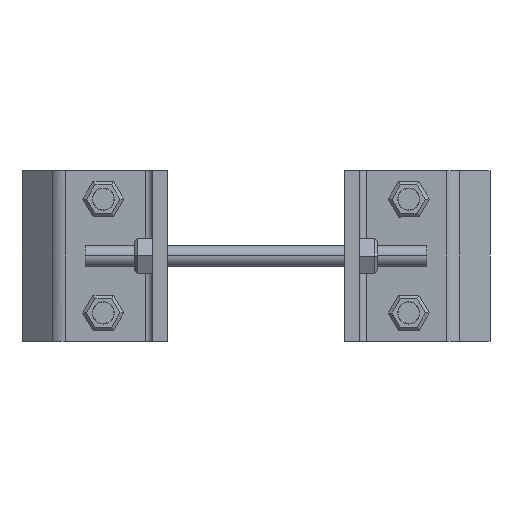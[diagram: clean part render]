
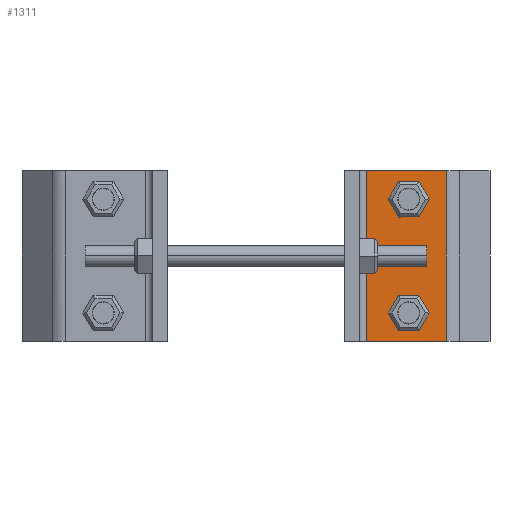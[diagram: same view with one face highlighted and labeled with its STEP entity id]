
A CAD part, front view. The second image highlights one B-rep face of the part: STEP entity #1311.
In plain terms, the highlighted planar face has unit normal (0, -1, 0).
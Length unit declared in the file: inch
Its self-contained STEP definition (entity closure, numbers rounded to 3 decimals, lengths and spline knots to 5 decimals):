
#1035=EDGE_CURVE('',#2383,#2153,#2384,.T.);
#1311=ADVANCED_FACE('',(#2756,#2757,#2758),#2759,.T.);
#1357=EDGE_CURVE('',#2816,#2383,#2817,.T.);
#1579=EDGE_CURVE('',#2816,#2027,#3086,.T.);
#1589=EDGE_CURVE('',#2027,#2153,#3099,.T.);
#2027=VERTEX_POINT('',#3768);
#2153=VERTEX_POINT('',#4059);
#2383=VERTEX_POINT('',#4494);
#2384=LINE('',#4495,#4496);
#2756=FACE_OUTER_BOUND('',#5194,.T.);
#2757=FACE_BOUND('',#5195,.T.);
#2758=FACE_BOUND('',#5196,.T.);
#2759=PLANE('',#5197);
#2816=VERTEX_POINT('',#5316);
#2817=LINE('',#5317,#5318);
#3086=LINE('',#6010,#6011);
#3099=LINE('',#6041,#6042);
#3768=CARTESIAN_POINT('',(5.16158,1.125,3.0));
#4059=CARTESIAN_POINT('',(3.74996,1.125,3.0));
#4494=CARTESIAN_POINT('',(3.74996,1.125,0.));
#4495=CARTESIAN_POINT('',(3.74996,1.125,0.));
#4496=VECTOR('',#7039,1.);
#5194=EDGE_LOOP('',(#7470,#7471,#7472,#7473));
#5195=EDGE_LOOP('',(#7474,#7475));
#5196=EDGE_LOOP('',(#7476,#7477));
#5197=AXIS2_PLACEMENT_3D('',#7478,#7479,#7480);
#5316=CARTESIAN_POINT('',(5.16158,1.125,0.));
#5317=CARTESIAN_POINT('',(5.16158,1.125,0.));
#5318=VECTOR('',#7556,1.);
#6010=CARTESIAN_POINT('',(5.16158,1.125,0.));
#6011=VECTOR('',#7888,1.);
#6041=CARTESIAN_POINT('',(5.16158,1.125,3.0));
#6042=VECTOR('',#7908,1.);
#7039=DIRECTION('',(0.0,0.0,1.0));
#7470=ORIENTED_EDGE('',*,*,#1589,.T.);
#7471=ORIENTED_EDGE('',*,*,#1035,.F.);
#7472=ORIENTED_EDGE('',*,*,#1357,.F.);
#7473=ORIENTED_EDGE('',*,*,#1579,.T.);
#7474=ORIENTED_EDGE('',*,*,#8251,.F.);
#7475=ORIENTED_EDGE('',*,*,#8291,.F.);
#7476=ORIENTED_EDGE('',*,*,#8141,.F.);
#7477=ORIENTED_EDGE('',*,*,#8292,.F.);
#7478=CARTESIAN_POINT('',(4.45577,1.125,0.));
#7479=DIRECTION('',(0.0,-1.0,0.0));
#7480=DIRECTION('',(1.0,0.0,0.0));
#7556=DIRECTION('',(-1.0,0.0,0.0));
#7888=DIRECTION('',(0.0,0.0,1.0));
#7908=DIRECTION('',(-1.0,0.0,0.0));
#8141=EDGE_CURVE('',#8392,#8387,#8394,.T.);
#8251=EDGE_CURVE('',#8526,#8522,#8528,.T.);
#8291=EDGE_CURVE('',#8522,#8526,#8568,.T.);
#8292=EDGE_CURVE('',#8387,#8392,#8569,.T.);
#8387=VERTEX_POINT('',#8668);
#8392=VERTEX_POINT('',#8674);
#8394=CIRCLE('',#8677,0.1875);
#8522=VERTEX_POINT('',#8829);
#8526=VERTEX_POINT('',#8834);
#8528=CIRCLE('',#8837,0.1875);
#8568=CIRCLE('',#8879,0.1875);
#8569=CIRCLE('',#8880,0.1875);
#8668=CARTESIAN_POINT('',(4.49802,1.125,2.6875));
#8674=CARTESIAN_POINT('',(4.49802,1.125,2.3125));
#8677=AXIS2_PLACEMENT_3D('',#8993,#8994,#8995);
#8829=CARTESIAN_POINT('',(4.49802,1.125,0.3125));
#8834=CARTESIAN_POINT('',(4.49802,1.125,0.6875));
#8837=AXIS2_PLACEMENT_3D('',#9057,#9058,#9059);
#8879=AXIS2_PLACEMENT_3D('',#9068,#9069,#9070);
#8880=AXIS2_PLACEMENT_3D('',#9071,#9072,#9073);
#8993=CARTESIAN_POINT('',(4.49802,1.125,2.5));
#8994=DIRECTION('',(0.0,-1.0,0.0));
#8995=DIRECTION('',(0.0,0.0,1.0));
#9057=CARTESIAN_POINT('',(4.49802,1.125,0.5));
#9058=DIRECTION('',(0.0,-1.0,0.0));
#9059=DIRECTION('',(0.0,0.0,-1.0));
#9068=CARTESIAN_POINT('',(4.49802,1.125,0.5));
#9069=DIRECTION('',(0.0,-1.0,0.0));
#9070=DIRECTION('',(0.0,0.0,-1.0));
#9071=CARTESIAN_POINT('',(4.49802,1.125,2.5));
#9072=DIRECTION('',(0.0,-1.0,0.0));
#9073=DIRECTION('',(0.0,0.0,1.0));
